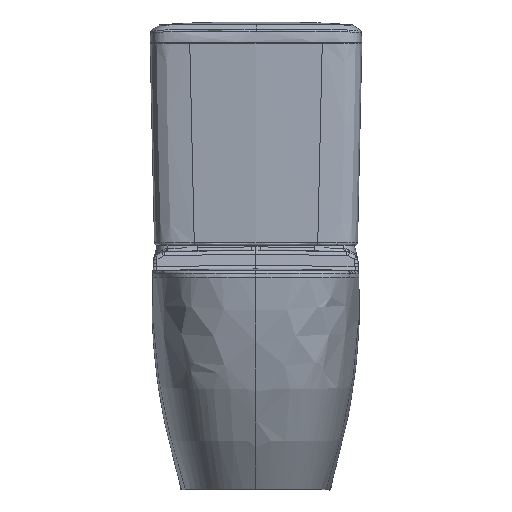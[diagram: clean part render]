
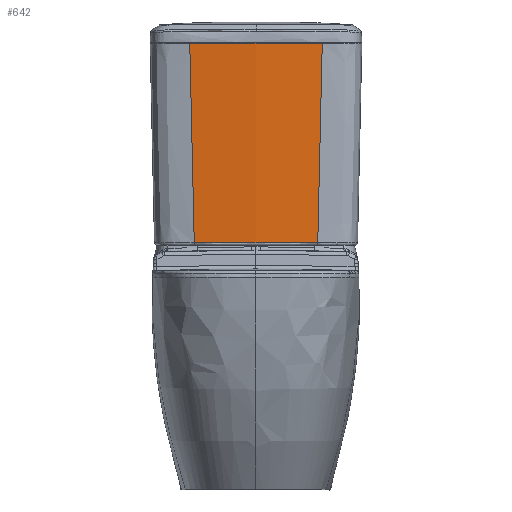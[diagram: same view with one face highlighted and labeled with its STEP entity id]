
A CAD part, front view. The second image highlights one B-rep face of the part: STEP entity #642.
In plain terms, the highlighted free-form (B-spline) face has degree [3, 3] with [8, 9] control points.
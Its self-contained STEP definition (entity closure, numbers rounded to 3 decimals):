
#642=ADVANCED_FACE('',(#1071),#834,.T.);
#834=B_SPLINE_SURFACE_WITH_KNOTS('',3,3,((#47067,#47068,#47069,#47070,#47071,
#47072,#47073,#47074,#47075),(#47076,#47077,#47078,#47079,#47080,#47081,
#47082,#47083,#47084),(#47085,#47086,#47087,#47088,#47089,#47090,#47091,
#47092,#47093),(#47094,#47095,#47096,#47097,#47098,#47099,#47100,#47101,
#47102),(#47103,#47104,#47105,#47106,#47107,#47108,#47109,#47110,#47111),
(#47112,#47113,#47114,#47115,#47116,#47117,#47118,#47119,#47120),(#47121,
#47122,#47123,#47124,#47125,#47126,#47127,#47128,#47129),(#47130,#47131,
#47132,#47133,#47134,#47135,#47136,#47137,#47138)),.UNSPECIFIED.,.F.,.F.,
 .F.,(4,2,2,4),(4,2,1,2,4),(0.,0.089,0.911,1.),
(0.,0.061,0.498,0.936,1.),
 .UNSPECIFIED.);
#1071=FACE_OUTER_BOUND('',#1368,.T.);
#1368=EDGE_LOOP('',(#2684,#2685,#2686,#2687));
#2684=ORIENTED_EDGE('',*,*,#4124,.T.);
#2685=ORIENTED_EDGE('',*,*,#4125,.T.);
#2686=ORIENTED_EDGE('',*,*,#4126,.T.);
#2687=ORIENTED_EDGE('',*,*,#4127,.T.);
#3415=VERTEX_POINT('',#47049);
#3416=VERTEX_POINT('',#47050);
#3417=VERTEX_POINT('',#47056);
#3418=VERTEX_POINT('',#47061);
#4124=EDGE_CURVE('',#3415,#3416,#4763,.T.);
#4125=EDGE_CURVE('',#3416,#3417,#4764,.T.);
#4126=EDGE_CURVE('',#3417,#3418,#4765,.T.);
#4127=EDGE_CURVE('',#3418,#3415,#4766,.T.);
#4763=B_SPLINE_CURVE_WITH_KNOTS('',3,(#47045,#47046,#47047,#47048),
 .UNSPECIFIED.,.F.,.F.,(4,4),(0.,1.),.UNSPECIFIED.);
#4764=B_SPLINE_CURVE_WITH_KNOTS('',3,(#47051,#47052,#47053,#47054,#47055),
 .UNSPECIFIED.,.F.,.F.,(4,1,4),(0.,0.5,1.),.UNSPECIFIED.);
#4765=B_SPLINE_CURVE_WITH_KNOTS('',3,(#47057,#47058,#47059,#47060),
 .UNSPECIFIED.,.F.,.F.,(4,4),(0.,1.),.UNSPECIFIED.);
#4766=B_SPLINE_CURVE_WITH_KNOTS('',3,(#47062,#47063,#47064,#47065,#47066),
 .UNSPECIFIED.,.F.,.F.,(4,1,4),(0.,0.5,1.),.UNSPECIFIED.);
#47045=CARTESIAN_POINT('',(113.043,-131.824,13.682));
#47046=CARTESIAN_POINT('',(117.268,-138.876,132.782));
#47047=CARTESIAN_POINT('',(120.034,-143.583,254.271));
#47048=CARTESIAN_POINT('',(121.207,-145.707,376.974));
#47049=CARTESIAN_POINT('',(113.043,-131.824,13.682));
#47050=CARTESIAN_POINT('',(121.207,-145.707,376.974));
#47051=CARTESIAN_POINT('',(121.207,-145.707,376.974));
#47052=CARTESIAN_POINT('',(81.081,-149.625,376.974));
#47053=CARTESIAN_POINT('',(0.45,-153.569,376.974));
#47054=CARTESIAN_POINT('',(-80.181,-149.625,376.974));
#47055=CARTESIAN_POINT('',(-120.306,-145.707,376.974));
#47056=CARTESIAN_POINT('',(-120.306,-145.707,376.974));
#47057=CARTESIAN_POINT('',(-120.306,-145.707,376.974));
#47058=CARTESIAN_POINT('',(-119.133,-143.583,254.272));
#47059=CARTESIAN_POINT('',(-116.368,-138.876,132.783));
#47060=CARTESIAN_POINT('',(-112.143,-131.824,13.682));
#47061=CARTESIAN_POINT('',(-112.142,-131.824,13.682));
#47062=CARTESIAN_POINT('',(-112.142,-131.824,13.682));
#47063=CARTESIAN_POINT('',(-74.717,-135.269,13.682));
#47064=CARTESIAN_POINT('',(0.45,-138.726,13.682));
#47065=CARTESIAN_POINT('',(75.617,-135.269,13.682));
#47066=CARTESIAN_POINT('',(113.043,-131.824,13.682));
#47067=CARTESIAN_POINT('',(210.256,-116.327,-31.644));
#47068=CARTESIAN_POINT('',(201.823,-117.612,-31.644));
#47069=CARTESIAN_POINT('',(193.391,-118.897,-31.644));
#47070=CARTESIAN_POINT('',(123.925,-129.479,-31.644));
#47071=CARTESIAN_POINT('',(0.45,-138.825,-31.644));
#47072=CARTESIAN_POINT('',(-123.025,-129.479,-31.644));
#47073=CARTESIAN_POINT('',(-192.912,-118.832,-31.644));
#47074=CARTESIAN_POINT('',(-201.766,-117.484,-31.644));
#47075=CARTESIAN_POINT('',(-210.62,-116.135,-31.644));
#47076=CARTESIAN_POINT('',(210.402,-117.166,-18.099));
#47077=CARTESIAN_POINT('',(201.963,-118.451,-18.099));
#47078=CARTESIAN_POINT('',(193.525,-119.737,-18.099));
#47079=CARTESIAN_POINT('',(124.011,-130.326,-18.099));
#47080=CARTESIAN_POINT('',(0.45,-139.68,-18.099));
#47081=CARTESIAN_POINT('',(-123.11,-130.326,-18.099));
#47082=CARTESIAN_POINT('',(-193.046,-119.673,-18.099));
#47083=CARTESIAN_POINT('',(-201.907,-118.323,-18.099));
#47084=CARTESIAN_POINT('',(-210.767,-116.973,-18.099));
#47085=CARTESIAN_POINT('',(210.547,-118.004,-4.553));
#47086=CARTESIAN_POINT('',(202.103,-119.291,-4.553));
#47087=CARTESIAN_POINT('',(193.659,-120.577,-4.553));
#47088=CARTESIAN_POINT('',(124.096,-131.173,-4.553));
#47089=CARTESIAN_POINT('',(0.45,-140.534,-4.553));
#47090=CARTESIAN_POINT('',(-123.196,-131.173,-4.553));
#47091=CARTESIAN_POINT('',(-193.18,-120.513,-4.553));
#47092=CARTESIAN_POINT('',(-202.047,-119.162,-4.553));
#47093=CARTESIAN_POINT('',(-210.914,-117.811,-4.553));
#47094=CARTESIAN_POINT('',(212.033,-126.552,133.524));
#47095=CARTESIAN_POINT('',(203.529,-127.847,133.524));
#47096=CARTESIAN_POINT('',(195.024,-129.141,133.524));
#47097=CARTESIAN_POINT('',(124.968,-139.805,133.524));
#47098=CARTESIAN_POINT('',(0.45,-149.245,133.524));
#47099=CARTESIAN_POINT('',(-124.068,-139.805,133.524));
#47100=CARTESIAN_POINT('',(-194.549,-129.076,133.524));
#47101=CARTESIAN_POINT('',(-203.479,-127.717,133.524));
#47102=CARTESIAN_POINT('',(-212.408,-126.358,133.524));
#47103=CARTESIAN_POINT('',(212.89,-131.483,258.234));
#47104=CARTESIAN_POINT('',(204.351,-132.782,258.234));
#47105=CARTESIAN_POINT('',(195.812,-134.081,258.234));
#47106=CARTESIAN_POINT('',(125.471,-144.782,258.234));
#47107=CARTESIAN_POINT('',(0.45,-154.271,258.234));
#47108=CARTESIAN_POINT('',(-124.571,-144.782,258.234));
#47109=CARTESIAN_POINT('',(-195.339,-134.016,258.234));
#47110=CARTESIAN_POINT('',(-204.304,-132.653,258.234));
#47111=CARTESIAN_POINT('',(-213.27,-131.289,258.234));
#47112=CARTESIAN_POINT('',(213.303,-133.865,396.562));
#47113=CARTESIAN_POINT('',(204.748,-135.166,396.562));
#47114=CARTESIAN_POINT('',(196.192,-136.467,396.562));
#47115=CARTESIAN_POINT('',(125.715,-147.181,396.562));
#47116=CARTESIAN_POINT('',(0.45,-156.701,396.562));
#47117=CARTESIAN_POINT('',(-124.814,-147.181,396.562));
#47118=CARTESIAN_POINT('',(-195.719,-136.402,396.562));
#47119=CARTESIAN_POINT('',(-204.703,-135.036,396.562));
#47120=CARTESIAN_POINT('',(-213.686,-133.67,396.562));
#47121=CARTESIAN_POINT('',(213.344,-134.099,410.132));
#47122=CARTESIAN_POINT('',(204.786,-135.4,410.132));
#47123=CARTESIAN_POINT('',(196.229,-136.701,410.132));
#47124=CARTESIAN_POINT('',(125.739,-147.416,410.132));
#47125=CARTESIAN_POINT('',(0.45,-156.94,410.132));
#47126=CARTESIAN_POINT('',(-124.838,-147.416,410.132));
#47127=CARTESIAN_POINT('',(-195.757,-136.636,410.132));
#47128=CARTESIAN_POINT('',(-204.742,-135.27,410.132));
#47129=CARTESIAN_POINT('',(-213.727,-133.904,410.132));
#47130=CARTESIAN_POINT('',(213.384,-134.333,423.703));
#47131=CARTESIAN_POINT('',(204.825,-135.634,423.703));
#47132=CARTESIAN_POINT('',(196.267,-136.935,423.703));
#47133=CARTESIAN_POINT('',(125.763,-147.652,423.703));
#47134=CARTESIAN_POINT('',(0.45,-157.178,423.703));
#47135=CARTESIAN_POINT('',(-124.862,-147.652,423.703));
#47136=CARTESIAN_POINT('',(-195.794,-136.87,423.703));
#47137=CARTESIAN_POINT('',(-204.781,-135.504,423.703));
#47138=CARTESIAN_POINT('',(-213.767,-134.138,423.703));
